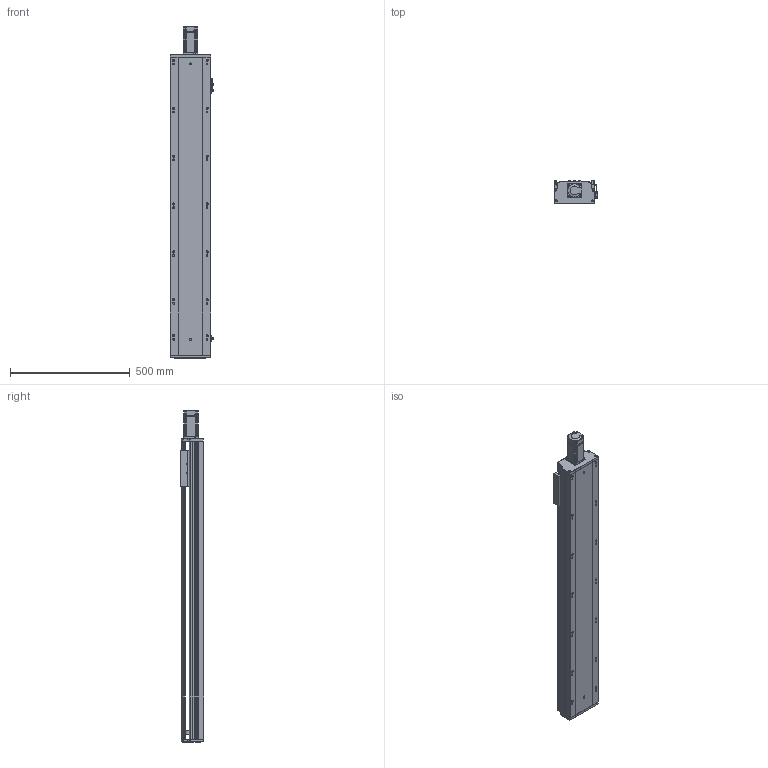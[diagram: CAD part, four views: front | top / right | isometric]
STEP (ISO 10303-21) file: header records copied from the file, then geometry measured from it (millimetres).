
FILE_DESCRIPTION (( 'STEP AP203' ), '1' );
FILE_NAME ('RY170Q-L2020-400-MK.SLDASM_1000.step', '2021-05-31T02:03:07', ( '盈信电脑' ), ( '东莞市道滘镇水果街19号' ), 'SwSTEP 2.0', 'SolidWorks 2016', '' );
FILE_SCHEMA (( 'CONFIG_CONTROL_DESIGN' ));
Length unit declared in the file: millimetre
Products named in the file (12): RY170Q-400倰第裔啣-MK_1000; RY170綴裔啣; 15; 覜茼ん672; RY170ヶ醱裔啣; RY170Q臏賑輸20佪裝蹟譫(FK15); 侂狟400W侜督萇儂; RY170外置感应片(200共用）; 滅袉蝶18-10; RY170Q-L2020-400-MK.SLDASM_1000; RY170Q-400倰第菁釱-MK_1000; 滅袉蝶18-15
Assembly tree (14 placements, depth 3):
  RY170Q-L2020-400-MK.SLDASM_1000
    RY170Q-400倰第菁釱-MK_1000
    RY170Q-400倰第裔啣-MK_1000
    RY170Q臏賑輸20佪裝蹟譫(FK15)
    侂狟400W侜督萇儂
      15
    RY170綴裔啣
    覜茼ん672  x3
    RY170外置感应片(200共用）
    RY170ヶ醱裔啣
    滅袉蝶18-15  x2
    滅袉蝶18-10
Bounding box: 183.7 x 97 x 1386.5 mm (x, y, z)
Volume: 6211088.1 mm3; surface area: 2043855.9 mm2
Topology: 13 solids, 13 shells, 2222 faces, 6343 edges, 4083 vertices
Faces by surface type: plane 1185, cylinder 815, cone 193, bspline 29
Entity records: 69994 total; most frequent: CARTESIAN_POINT 15445, ORIENTED_EDGE 11402, DIRECTION 10820, EDGE_CURVE 5701, VERTEX_POINT 3751, LINE 3660, VECTOR 3660, AXIS2_PLACEMENT_3D 3580
